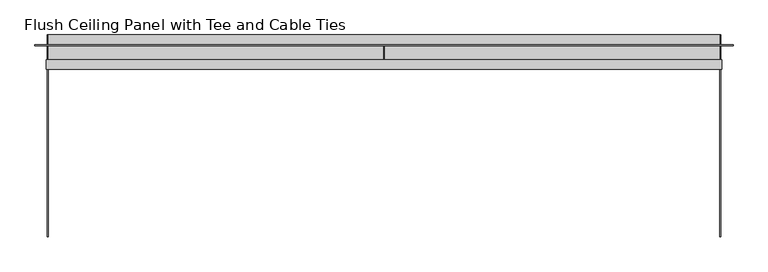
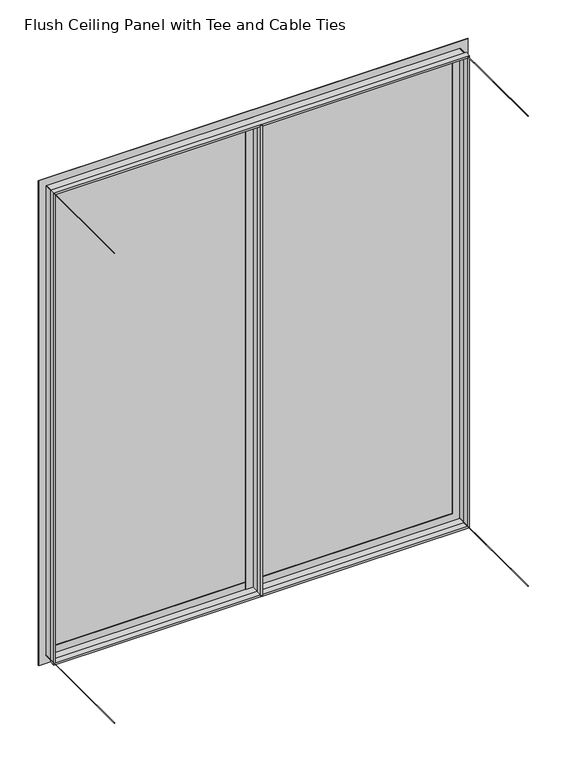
"""IFC4 building model written with IfcOpenShell, lengths in millimetres: plate geometry, Flush Ceiling Panel with Tee and Cable Ties : Ceiling Panel (Vinyl) with Tee and Cable Ties Edge."""

from ifc_helpers import new_model, si_unit, point, frame, frame_2d, origin, origin_with_axes, place, context, project, spatial, polyline, circle_curve, trimmed, segment, composite_curve, outline, extrude, faceted_brep, source, transform, mapped, element, save


def flush_ceiling_panel_with_tee_and_cable_ties_9fe2c077(model_context):
    return source(origin(), model_context, "Body", "SolidModel", [
        extrude(outline(composite_curve([segment(trimmed(circle_curve(frame_2d((1200.0, 500.0000002)), 0.5), [point((1200.0, 500.5000002))], [point((1200.0, 499.5000002))], False, "CARTESIAN"), True, "CONTINUOUS"), segment(trimmed(circle_curve(frame_2d((1200.0, 500.0000002)), 0.5), [point((1200.0, 499.5000002))], [point((1200.0, 500.5000002))], False, "CARTESIAN"), True, "CONTINUOUS")], self_intersect=False)), frame((0.0, -300.0, 0.0), z_axis=(0.0, 1.0, 0.0), x_axis=(0.0, 0.0, 1.0)), (0.0, 0.0, 1.0), 300.0),
        extrude(outline(composite_curve([segment(trimmed(circle_curve(frame_2d((1200.0, -500.0000002)), 0.5), [point((1200.0, -499.5000002))], [point((1200.0, -500.5000002))], False, "CARTESIAN"), True, "CONTINUOUS"), segment(trimmed(circle_curve(frame_2d((1200.0, -500.0000002)), 0.5), [point((1200.0, -500.5000002))], [point((1200.0, -499.5000002))], False, "CARTESIAN"), True, "CONTINUOUS")], self_intersect=False)), frame((0.0, -300.0, 0.0), z_axis=(0.0, 1.0, 0.0), x_axis=(0.0, 0.0, 1.0)), (0.0, 0.0, 1.0), 300.0),
        extrude(outline(composite_curve([segment(trimmed(circle_curve(frame_2d((0.0, 500.0000002)), 0.5), [point((0.0, 500.5000002))], [point((0.0, 499.5000002))], False, "CARTESIAN"), True, "CONTINUOUS"), segment(trimmed(circle_curve(frame_2d((0.0, 500.0000002)), 0.5), [point((0.0, 499.5000002))], [point((0.0, 500.5000002))], False, "CARTESIAN"), True, "CONTINUOUS")], self_intersect=False)), frame((0.0, -300.0, 0.0), z_axis=(0.0, 1.0, 0.0), x_axis=(0.0, 0.0, 1.0)), (0.0, 0.0, 1.0), 300.0),
        extrude(outline(composite_curve([segment(trimmed(circle_curve(frame_2d((0.0, -500.0000002)), 0.5), [point((0.0, -499.5000002))], [point((0.0, -500.5000002))], False, "CARTESIAN"), True, "CONTINUOUS"), segment(trimmed(circle_curve(frame_2d((0.0, -500.0000002)), 0.5), [point((0.0, -500.5000002))], [point((0.0, -499.5000002))], False, "CARTESIAN"), True, "CONTINUOUS")], self_intersect=False)), frame((0.0, -300.0, 0.0), z_axis=(0.0, 1.0, 0.0), x_axis=(0.0, 0.0, 1.0)), (0.0, 0.0, 1.0), 300.0),
        extrude(outline(polyline([(19.0, -15.0), (19.0, -16.0), (0.5, -16.0), (0.5, -37.0), (2.5, -37.0), (2.5, -51.0), (-2.5, -51.0), (-2.5, -37.0), (-0.5, -37.0), (-0.5, -16.0), (-19.0, -16.0), (-19.0, -15.0), (19.0, -15.0)])), origin_with_axes(), (0.0, 0.0, 1.0), 1200.0),
        faceted_brep([(499.5000002, -37.0, 1199.5), (499.5000002, -16.0, 1199.5), (499.5000002, -16.0, 0.5), (499.5000002, -37.0, 0.5), (497.5000002, -51.0, 1197.5), (497.5000002, -37.0, 1197.5), (497.5000002, -37.0, 2.5), (497.5000002, -51.0, 2.5), (502.5000002, -37.0, 1202.5), (502.5000002, -51.0, 1202.5), (502.5000002, -51.0, -2.5), (502.5000002, -37.0, -2.5), (500.5000002, -16.0, 1200.5), (500.5000002, -37.0, 1200.5), (500.5000002, -37.0, -0.5), (500.5000002, -16.0, -0.5), (519.0000002, -15.0, 1219.0), (519.0000002, -16.0, 1219.0), (519.0000002, -16.0, -19.0), (519.0000002, -15.0, -19.0), (-499.5000002, -16.0, 0.5), (-499.5000002, -37.0, 0.5), (-497.5000002, -37.0, 2.5), (-497.5000002, -51.0, 2.5), (-502.5000002, -51.0, -2.5), (-502.5000002, -37.0, -2.5), (-500.5000002, -37.0, -0.5), (-500.5000002, -16.0, -0.5), (-519.0000002, -16.0, -19.0), (-519.0000002, -15.0, -19.0), (-499.5000002, -16.0, 1199.5), (-499.5000002, -37.0, 1199.5), (-497.5000002, -37.0, 1197.5), (-497.5000002, -51.0, 1197.5), (-502.5000002, -51.0, 1202.5), (-502.5000002, -37.0, 1202.5), (-500.5000002, -37.0, 1200.5), (-500.5000002, -16.0, 1200.5), (-519.0000002, -16.0, 1219.0), (-519.0000002, -15.0, 1219.0), (481.0000002, -15.0, 1181.0), (-481.0000002, -15.0, 1181.0), (-481.0000002, -15.0, 19.0), (481.0000002, -15.0, 19.0), (481.0000002, -16.0, 1181.0), (481.0000002, -16.0, 19.0), (-481.0000002, -16.0, 19.0), (-481.0000002, -16.0, 1181.0)], [[[0, 1, 2, 3]], [[4, 5, 6, 7]], [[8, 9, 10, 11]], [[12, 13, 14, 15]], [[16, 17, 18, 19]], [[3, 2, 20, 21]], [[7, 6, 22, 23]], [[11, 10, 24, 25]], [[15, 14, 26, 27]], [[19, 18, 28, 29]], [[21, 20, 30, 31]], [[23, 22, 32, 33]], [[25, 24, 34, 35]], [[27, 26, 36, 37]], [[29, 28, 38, 39]], [[19, 29, 39, 16], [40, 41, 42, 43]], [[31, 30, 1, 0]], [[3, 21, 31, 0], [5, 32, 22, 6]], [[33, 32, 5, 4]], [[9, 34, 24, 10], [7, 23, 33, 4]], [[35, 34, 9, 8]], [[11, 25, 35, 8], [13, 36, 26, 14]], [[37, 36, 13, 12]], [[17, 38, 28, 18], [15, 27, 37, 12]], [[39, 38, 17, 16]], [[44, 40, 43, 45]], [[45, 43, 42, 46]], [[46, 42, 41, 47]], [[47, 41, 40, 44]], [[1, 30, 20, 2], [45, 46, 47, 44]]]),
        extrude(outline(polyline([(500.0000002, -15.0), (-500.0000002, -15.0), (-500.0000002, 0.0), (500.0000002, 0.0), (500.0000002, -15.0)])), origin_with_axes(), (0.0, 0.0, 1.0), 1200.0),
    ])


if __name__ == "__main__":
    model = new_model("IFC4")
    model_context = context("Model", 3, world=origin())
    ifc_project = project(units=[si_unit("LENGTHUNIT", "METRE", prefix="MILLI")], contexts=[model_context])
    site = spatial("IfcSite", under=ifc_project)
    building = spatial("IfcBuilding", under=site)
    placement = place(None, origin())
    flush_ceiling_panel_with_tee_and_cable_ties_shape = flush_ceiling_panel_with_tee_and_cable_ties_9fe2c077(model_context)
    element("IfcPlate", 1, ObjectType="Flush Ceiling Panel with Tee and Cable Ties : Ceiling Panel (Vinyl) with Tee and Cable Ties Edge", at=placement, inside=building, context=model_context, shape_type="MappedRepresentation", body=[
        mapped(flush_ceiling_panel_with_tee_and_cable_ties_shape, transform((0.0, 0.0, 0.0), x_axis=(1.0, 0.0, 0.0), y_axis=(0.0, 1.0, 0.0), z_axis=(0.0, 0.0, 1.0))),
    ])
    save(model, "model.ifc")
